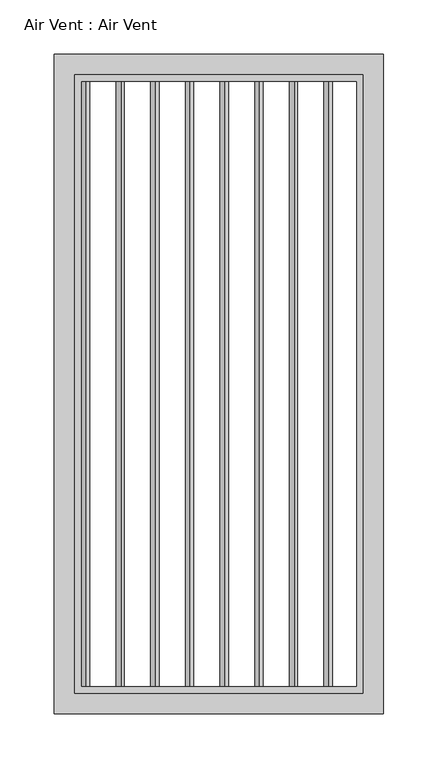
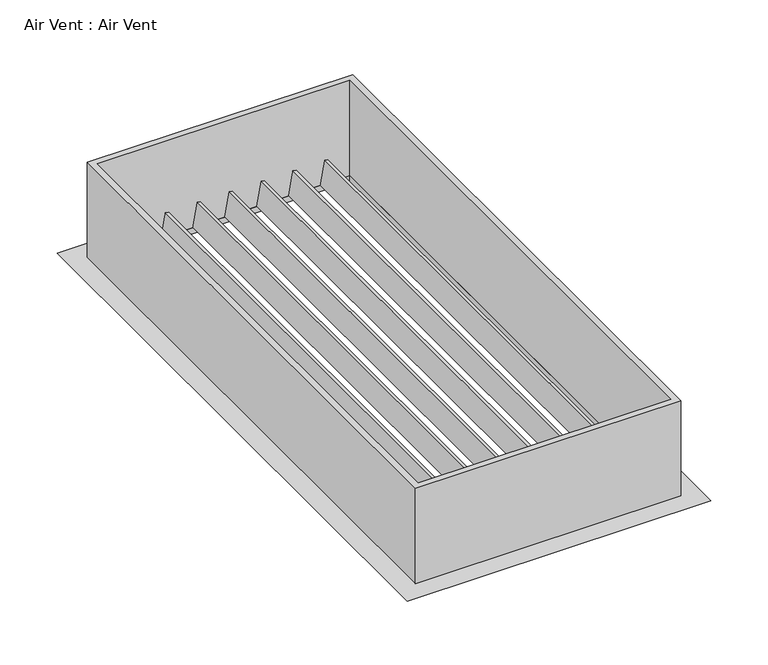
"""IFC4 building model written with IfcOpenShell, lengths in millimetres: proxy geometry, Air Vent : Air Vent."""

from ifc_helpers import new_model, si_unit, frame, origin, place, context, project, spatial, polyline, outline, extrude, faceted_brep, source, transform, mapped, element, save


def air_vent_air_vent_815df070(model_context):
    return source(origin(), model_context, "Body", "SolidModel", [
        extrude(outline(polyline([(0.0, -3.175), (0.0, 0.0), (558.8, 0.0), (558.8, -3.175), (0.0, -3.175)])), frame((-94.9418006, -279.4, 2438.951333), z_axis=(0.1736481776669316, 0.0, 0.9848077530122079), x_axis=(0.0, 1.0, 0.0)), (0.0, 0.0, 1.0), 25.4),
        extrude(outline(polyline([(0.0, -3.175), (0.0, 0.0), (558.8, 0.0), (558.8, -3.175), (0.0, -3.175)])), frame((-62.8836012, -279.4, 2438.951333), z_axis=(0.1736481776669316, 0.0, 0.9848077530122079), x_axis=(0.0, 1.0, 0.0)), (0.0, 0.0, 1.0), 25.4),
        extrude(outline(polyline([(0.0, -3.175), (0.0, 0.0), (558.8, 0.0), (558.8, -3.175), (0.0, -3.175)])), frame((-30.8254018, -279.4, 2438.951333), z_axis=(0.1736481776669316, 0.0, 0.9848077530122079), x_axis=(0.0, 1.0, 0.0)), (0.0, 0.0, 1.0), 25.4),
        extrude(outline(polyline([(0.0, -3.1750001), (0.0, 0.0), (558.8, 0.0), (558.8, -3.1750001), (0.0, -3.1750001)])), frame((1.2327975, -279.4, 2438.951333), z_axis=(0.1736481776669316, 0.0, 0.9848077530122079), x_axis=(0.0, 1.0, 0.0)), (0.0, 0.0, 1.0), 25.4),
        extrude(outline(polyline([(0.0, -3.175), (0.0, 0.0), (558.8, 0.0), (558.8, -3.175), (0.0, -3.175)])), frame((33.2909969, -279.4, 2438.951333), z_axis=(0.1736481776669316, 0.0, 0.9848077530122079), x_axis=(0.0, 1.0, 0.0)), (0.0, 0.0, 1.0), 25.4),
        extrude(outline(polyline([(0.0, -3.175), (0.0, 0.0), (558.8, 0.0), (558.8, -3.175), (0.0, -3.175)])), frame((65.3491963, -279.4, 2438.951333), z_axis=(0.1736481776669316, 0.0, 0.9848077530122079), x_axis=(0.0, 1.0, 0.0)), (0.0, 0.0, 1.0), 25.4),
        extrude(outline(polyline([(0.0, -3.175), (0.0, 0.0), (558.8, 0.0), (558.8, -3.175), (0.0, -3.175)])), frame((97.4073957, -279.4, 2438.951333), z_axis=(0.1736481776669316, 0.0, 0.9848077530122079), x_axis=(0.0, 1.0, 0.0)), (0.0, 0.0, 1.0), 25.4),
        extrude(outline(polyline([(0.0, -3.175), (0.0, 0.0), (558.8, 0.0), (558.8, -3.175), (0.0, -3.175)])), frame((-127.0, -279.4, 2438.951333), z_axis=(0.1736481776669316, 0.0, 0.9848077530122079), x_axis=(0.0, 1.0, 0.0)), (0.0, 0.0, 1.0), 25.4),
        faceted_brep([(127.0, 279.4, 2438.4), (127.0, 279.4, 2432.05), (127.0, -279.4, 2432.05), (127.0, -279.4, 2438.4), (-127.0, -279.4, 2432.05), (-127.0, -279.4, 2438.4), (-127.0, 279.4, 2432.05), (-127.0, 279.4, 2438.4), (139.7, -292.1, 2432.05), (-139.7, -292.1, 2432.05), (-139.7, 292.1, 2432.05), (139.7, 292.1, 2432.05), (152.4, 304.8, 2438.4), (-152.4, 304.8, 2438.4), (-152.4, -304.8, 2438.4), (152.4, -304.8, 2438.4)], [[[0, 1, 2, 3]], [[3, 2, 4, 5]], [[5, 4, 6, 7]], [[8, 9, 10, 11], [1, 6, 4, 2]], [[12, 13, 14, 15], [3, 5, 7, 0]], [[7, 6, 1, 0]], [[11, 12, 15, 8]], [[8, 15, 14, 9]], [[9, 14, 13, 10]], [[10, 13, 12, 11]]]),
        extrude(outline(polyline([(133.35, 285.75), (133.35, -285.75), (-133.35, -285.75), (-133.35, 285.75), (133.35, 285.75)]), holes=[polyline([(127.0, 279.4), (-127.0, 279.4), (-127.0, -279.4), (127.0, -279.4), (127.0, 279.4)])]), frame((0.0, 0.0, 2438.4), z_axis=(0.0, 0.0, 1.0), x_axis=(1.0, 0.0, 0.0)), (0.0, 0.0, 1.0), 101.6),
    ])


if __name__ == "__main__":
    model = new_model("IFC4")
    model_context = context("Model", 3, world=origin())
    ifc_project = project(units=[si_unit("LENGTHUNIT", "METRE", prefix="MILLI")], contexts=[model_context])
    site = spatial("IfcSite", under=ifc_project)
    building = spatial("IfcBuilding", under=site)
    placement = place(None, origin())
    air_vent_air_vent_shape = air_vent_air_vent_815df070(model_context)
    element("IfcBuildingElementProxy", 1, Name="Air Vent : Air Vent", ObjectType="Air Vent : Air Vent", at=placement, inside=building, context=model_context, shape_type="MappedRepresentation", body=[
        mapped(air_vent_air_vent_shape, transform((0.0, 0.0, 0.0), x_axis=(1.0, 0.0, 0.0), y_axis=(0.0, 1.0, 0.0), z_axis=(0.0, 0.0, 1.0))),
    ])
    save(model, "model.ifc")
